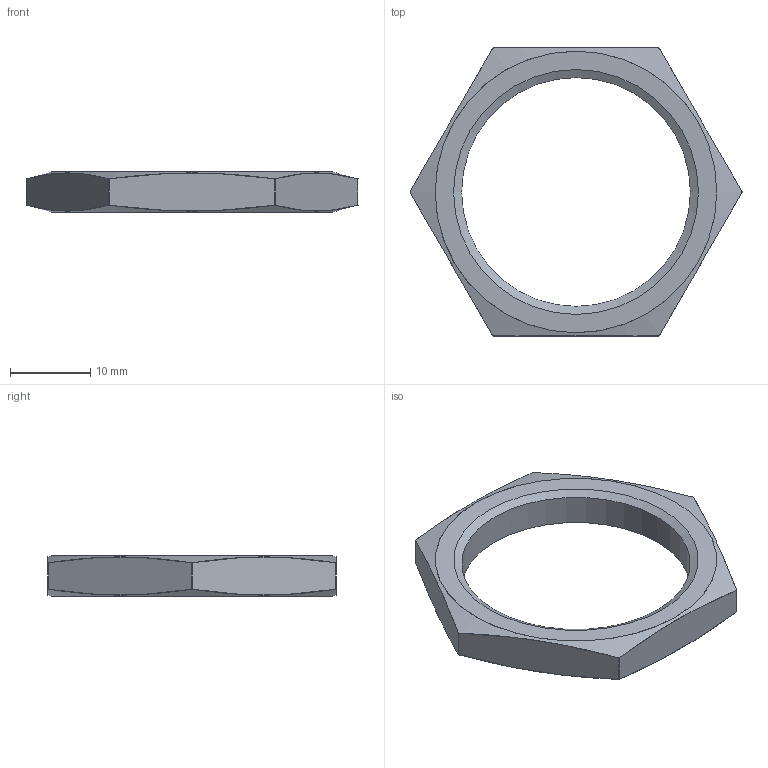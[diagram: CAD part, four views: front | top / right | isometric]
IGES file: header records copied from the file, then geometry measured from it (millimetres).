
Global section: file name: No Iges File Name specified; native system: AutoDesk Inventor R9; preprocessor: AutoDesk Inventor Iges Exporter R9; author: No Author specified; organization: No Organization specified; date: 20060821.143202; units: millimetre
Bounding box: 41.5 x 36 x 5 mm (x, y, z)
Surface area: 1877.3 mm2 (no closed solid volume)
Topology: 0 solids, 0 shells, 19 faces, 91 edges, 86 vertices
Faces by surface type: revolution 11, plane 8
